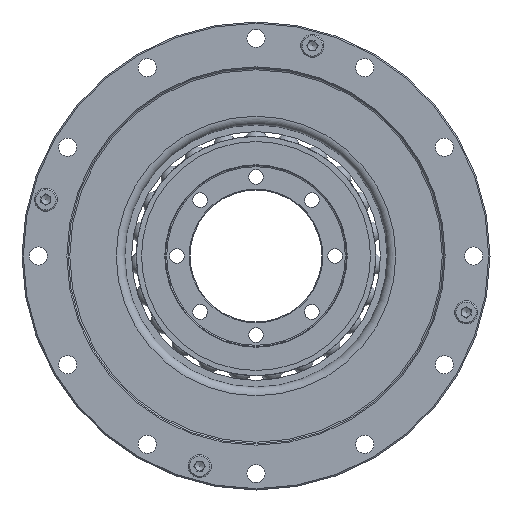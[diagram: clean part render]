
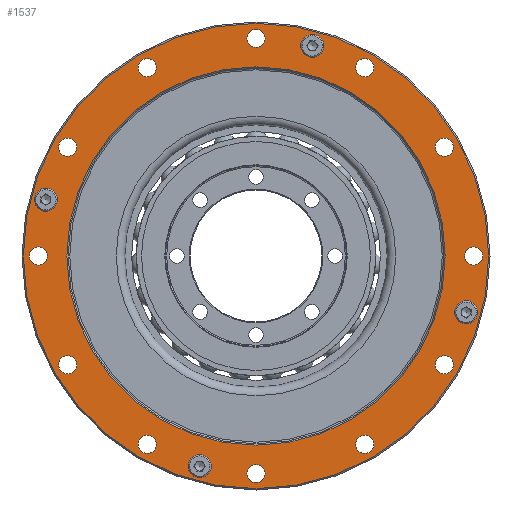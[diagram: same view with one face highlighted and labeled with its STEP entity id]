
A CAD part, left-side view. The second image highlights one B-rep face of the part: STEP entity #1537.
In plain terms, the highlighted planar face has unit normal (-1, 0, 0).
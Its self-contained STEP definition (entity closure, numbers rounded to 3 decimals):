
#1537=ADVANCED_FACE('',(#2261,#2262,#2263,#2264,#2265,#2266,#2267,#2268,
#2269,#2270,#2271,#2272,#2273,#2274,#2275,#2276,#2277,#2278),#2070,.F.);
#2070=PLANE('',#8161);
#2261=FACE_BOUND('',#3038,.T.);
#2262=FACE_BOUND('',#3039,.T.);
#2263=FACE_BOUND('',#3040,.T.);
#2264=FACE_BOUND('',#3041,.T.);
#2265=FACE_BOUND('',#3042,.T.);
#2266=FACE_BOUND('',#3043,.T.);
#2267=FACE_BOUND('',#3044,.T.);
#2268=FACE_BOUND('',#3045,.T.);
#2269=FACE_BOUND('',#3046,.T.);
#2270=FACE_BOUND('',#3047,.T.);
#2271=FACE_BOUND('',#3048,.T.);
#2272=FACE_BOUND('',#3049,.T.);
#2273=FACE_BOUND('',#3050,.T.);
#2274=FACE_BOUND('',#3051,.T.);
#2275=FACE_BOUND('',#3052,.T.);
#2276=FACE_BOUND('',#3053,.T.);
#2277=FACE_BOUND('',#3054,.T.);
#2278=FACE_BOUND('',#3055,.T.);
#3038=EDGE_LOOP('',(#3965));
#3039=EDGE_LOOP('',(#3966));
#3040=EDGE_LOOP('',(#3967));
#3041=EDGE_LOOP('',(#3968));
#3042=EDGE_LOOP('',(#3969));
#3043=EDGE_LOOP('',(#3970));
#3044=EDGE_LOOP('',(#3971));
#3045=EDGE_LOOP('',(#3972));
#3046=EDGE_LOOP('',(#3973));
#3047=EDGE_LOOP('',(#3974));
#3048=EDGE_LOOP('',(#3975));
#3049=EDGE_LOOP('',(#3976));
#3050=EDGE_LOOP('',(#3977));
#3051=EDGE_LOOP('',(#3978));
#3052=EDGE_LOOP('',(#3979));
#3053=EDGE_LOOP('',(#3980));
#3054=EDGE_LOOP('',(#3981));
#3055=EDGE_LOOP('',(#3982));
#3965=ORIENTED_EDGE('',*,*,#6457,.T.);
#3966=ORIENTED_EDGE('',*,*,#6458,.T.);
#3967=ORIENTED_EDGE('',*,*,#6459,.T.);
#3968=ORIENTED_EDGE('',*,*,#6460,.T.);
#3969=ORIENTED_EDGE('',*,*,#6461,.T.);
#3970=ORIENTED_EDGE('',*,*,#6462,.T.);
#3971=ORIENTED_EDGE('',*,*,#6463,.T.);
#3972=ORIENTED_EDGE('',*,*,#6464,.T.);
#3973=ORIENTED_EDGE('',*,*,#6465,.T.);
#3974=ORIENTED_EDGE('',*,*,#6466,.T.);
#3975=ORIENTED_EDGE('',*,*,#6467,.T.);
#3976=ORIENTED_EDGE('',*,*,#6468,.T.);
#3977=ORIENTED_EDGE('',*,*,#6469,.T.);
#3978=ORIENTED_EDGE('',*,*,#6470,.T.);
#3979=ORIENTED_EDGE('',*,*,#6471,.T.);
#3980=ORIENTED_EDGE('',*,*,#6472,.T.);
#3981=ORIENTED_EDGE('',*,*,#6473,.T.);
#3982=ORIENTED_EDGE('',*,*,#6455,.T.);
#5717=VERTEX_POINT('',#11516);
#5719=VERTEX_POINT('',#11522);
#5720=VERTEX_POINT('',#11524);
#5721=VERTEX_POINT('',#11526);
#5722=VERTEX_POINT('',#11528);
#5723=VERTEX_POINT('',#11530);
#5724=VERTEX_POINT('',#11532);
#5725=VERTEX_POINT('',#11534);
#5726=VERTEX_POINT('',#11536);
#5727=VERTEX_POINT('',#11538);
#5728=VERTEX_POINT('',#11540);
#5729=VERTEX_POINT('',#11542);
#5730=VERTEX_POINT('',#11544);
#5731=VERTEX_POINT('',#11546);
#5732=VERTEX_POINT('',#11548);
#5733=VERTEX_POINT('',#11550);
#5734=VERTEX_POINT('',#11552);
#5735=VERTEX_POINT('',#11554);
#6455=EDGE_CURVE('',#5717,#5717,#7431,.T.);
#6457=EDGE_CURVE('',#5719,#5719,#7433,.T.);
#6458=EDGE_CURVE('',#5720,#5720,#7434,.T.);
#6459=EDGE_CURVE('',#5721,#5721,#7435,.T.);
#6460=EDGE_CURVE('',#5722,#5722,#7436,.T.);
#6461=EDGE_CURVE('',#5723,#5723,#7437,.T.);
#6462=EDGE_CURVE('',#5724,#5724,#7438,.T.);
#6463=EDGE_CURVE('',#5725,#5725,#7439,.T.);
#6464=EDGE_CURVE('',#5726,#5726,#7440,.T.);
#6465=EDGE_CURVE('',#5727,#5727,#7441,.T.);
#6466=EDGE_CURVE('',#5728,#5728,#7442,.T.);
#6467=EDGE_CURVE('',#5729,#5729,#7443,.T.);
#6468=EDGE_CURVE('',#5730,#5730,#7444,.T.);
#6469=EDGE_CURVE('',#5731,#5731,#7445,.T.);
#6470=EDGE_CURVE('',#5732,#5732,#7446,.T.);
#6471=EDGE_CURVE('',#5733,#5733,#7447,.T.);
#6472=EDGE_CURVE('',#5734,#5734,#7448,.T.);
#6473=EDGE_CURVE('',#5735,#5735,#7449,.T.);
#7431=CIRCLE('',#8140,70.6);
#7433=CIRCLE('',#8144,2.25);
#7434=CIRCLE('',#8145,2.25);
#7435=CIRCLE('',#8146,2.25);
#7436=CIRCLE('',#8147,2.25);
#7437=CIRCLE('',#8148,2.75);
#7438=CIRCLE('',#8149,2.75);
#7439=CIRCLE('',#8150,2.75);
#7440=CIRCLE('',#8151,2.75);
#7441=CIRCLE('',#8152,2.75);
#7442=CIRCLE('',#8153,2.75);
#7443=CIRCLE('',#8154,2.75);
#7444=CIRCLE('',#8155,2.75);
#7445=CIRCLE('',#8156,2.75);
#7446=CIRCLE('',#8157,2.75);
#7447=CIRCLE('',#8158,2.75);
#7448=CIRCLE('',#8159,2.75);
#7449=CIRCLE('',#8160,57.4);
#8140=AXIS2_PLACEMENT_3D('',#11515,#9246,#9247);
#8144=AXIS2_PLACEMENT_3D('',#11521,#9254,#9255);
#8145=AXIS2_PLACEMENT_3D('',#11523,#9256,#9257);
#8146=AXIS2_PLACEMENT_3D('',#11525,#9258,#9259);
#8147=AXIS2_PLACEMENT_3D('',#11527,#9260,#9261);
#8148=AXIS2_PLACEMENT_3D('',#11529,#9262,#9263);
#8149=AXIS2_PLACEMENT_3D('',#11531,#9264,#9265);
#8150=AXIS2_PLACEMENT_3D('',#11533,#9266,#9267);
#8151=AXIS2_PLACEMENT_3D('',#11535,#9268,#9269);
#8152=AXIS2_PLACEMENT_3D('',#11537,#9270,#9271);
#8153=AXIS2_PLACEMENT_3D('',#11539,#9272,#9273);
#8154=AXIS2_PLACEMENT_3D('',#11541,#9274,#9275);
#8155=AXIS2_PLACEMENT_3D('',#11543,#9276,#9277);
#8156=AXIS2_PLACEMENT_3D('',#11545,#9278,#9279);
#8157=AXIS2_PLACEMENT_3D('',#11547,#9280,#9281);
#8158=AXIS2_PLACEMENT_3D('',#11549,#9282,#9283);
#8159=AXIS2_PLACEMENT_3D('',#11551,#9284,#9285);
#8160=AXIS2_PLACEMENT_3D('',#11553,#9286,#9287);
#8161=AXIS2_PLACEMENT_3D('',#11555,#9288,#9289);
#9246=DIRECTION('',(-1.,0.,0.));
#9247=DIRECTION('',(0.,0.5,0.866));
#9254=DIRECTION('',(1.,0.,0.));
#9255=DIRECTION('',(0.,0.5,0.866));
#9256=DIRECTION('',(1.,0.,0.));
#9257=DIRECTION('',(0.,0.5,0.866));
#9258=DIRECTION('',(1.,0.,0.));
#9259=DIRECTION('',(0.,0.5,0.866));
#9260=DIRECTION('',(1.,0.,0.));
#9261=DIRECTION('',(0.,0.5,0.866));
#9262=DIRECTION('',(1.,0.,0.));
#9263=DIRECTION('',(0.,0.5,0.866));
#9264=DIRECTION('',(1.,0.,0.));
#9265=DIRECTION('',(0.,0.5,0.866));
#9266=DIRECTION('',(1.,0.,0.));
#9267=DIRECTION('',(0.,0.5,0.866));
#9268=DIRECTION('',(1.,0.,0.));
#9269=DIRECTION('',(0.,0.5,0.866));
#9270=DIRECTION('',(1.,0.,0.));
#9271=DIRECTION('',(0.,0.5,0.866));
#9272=DIRECTION('',(1.,0.,0.));
#9273=DIRECTION('',(0.,0.5,0.866));
#9274=DIRECTION('',(1.,0.,0.));
#9275=DIRECTION('',(0.,0.5,0.866));
#9276=DIRECTION('',(1.,0.,0.));
#9277=DIRECTION('',(0.,0.5,0.866));
#9278=DIRECTION('',(1.,0.,0.));
#9279=DIRECTION('',(0.,0.5,0.866));
#9280=DIRECTION('',(1.,0.,0.));
#9281=DIRECTION('',(0.,0.5,0.866));
#9282=DIRECTION('',(1.,0.,0.));
#9283=DIRECTION('',(0.,0.5,0.866));
#9284=DIRECTION('',(1.,0.,0.));
#9285=DIRECTION('',(0.,0.5,0.866));
#9286=DIRECTION('',(1.,0.,0.));
#9287=DIRECTION('',(0.,0.5,0.866));
#9288=DIRECTION('',(1.,0.,0.));
#9289=DIRECTION('',(0.,0.5,0.866));
#11515=CARTESIAN_POINT('',(-42.,0.,0.));
#11516=CARTESIAN_POINT('',(-42.,35.3,61.141));
#11521=CARTESIAN_POINT('',(-42.,-17.082,63.751));
#11522=CARTESIAN_POINT('',(-42.,-15.957,65.7));
#11523=CARTESIAN_POINT('',(-42.,63.751,17.082));
#11524=CARTESIAN_POINT('',(-42.,64.876,19.031));
#11525=CARTESIAN_POINT('',(-42.,17.082,-63.751));
#11526=CARTESIAN_POINT('',(-42.,18.207,-61.803));
#11527=CARTESIAN_POINT('',(-42.,-63.751,-17.082));
#11528=CARTESIAN_POINT('',(-42.,-62.626,-15.133));
#11529=CARTESIAN_POINT('',(-42.,-66.,0.));
#11530=CARTESIAN_POINT('',(-42.,-64.625,2.382));
#11531=CARTESIAN_POINT('',(-42.,-57.158,-33.));
#11532=CARTESIAN_POINT('',(-42.,-55.783,-30.618));
#11533=CARTESIAN_POINT('',(-42.,-33.,-57.158));
#11534=CARTESIAN_POINT('',(-42.,-31.625,-54.776));
#11535=CARTESIAN_POINT('',(-42.,0.,-66.));
#11536=CARTESIAN_POINT('',(-42.,1.375,-63.618));
#11537=CARTESIAN_POINT('',(-42.,33.,-57.158));
#11538=CARTESIAN_POINT('',(-42.,34.375,-54.776));
#11539=CARTESIAN_POINT('',(-42.,57.158,-33.));
#11540=CARTESIAN_POINT('',(-42.,58.533,-30.618));
#11541=CARTESIAN_POINT('',(-42.,66.,0.));
#11542=CARTESIAN_POINT('',(-42.,67.375,2.382));
#11543=CARTESIAN_POINT('',(-42.,57.158,33.));
#11544=CARTESIAN_POINT('',(-42.,58.533,35.382));
#11545=CARTESIAN_POINT('',(-42.,33.,57.158));
#11546=CARTESIAN_POINT('',(-42.,34.375,59.539));
#11547=CARTESIAN_POINT('',(-42.,0.,66.));
#11548=CARTESIAN_POINT('',(-42.,1.375,68.382));
#11549=CARTESIAN_POINT('',(-42.,-33.,57.158));
#11550=CARTESIAN_POINT('',(-42.,-31.625,59.539));
#11551=CARTESIAN_POINT('',(-42.,-57.158,33.));
#11552=CARTESIAN_POINT('',(-42.,-55.783,35.382));
#11553=CARTESIAN_POINT('',(-42.,0.,0.));
#11554=CARTESIAN_POINT('',(-42.,28.7,49.71));
#11555=CARTESIAN_POINT('',(-42.,-61.488,35.5));
